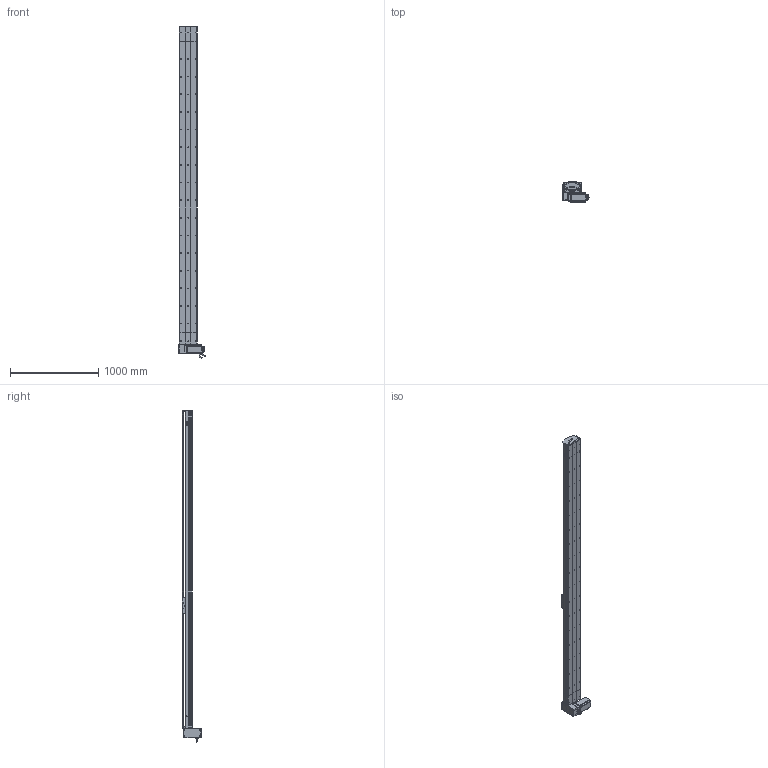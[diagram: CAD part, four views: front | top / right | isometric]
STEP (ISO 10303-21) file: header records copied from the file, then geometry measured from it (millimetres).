
FILE_DESCRIPTION (( 'STEP AP214' ), '1' );
FILE_NAME ('D20 TBH RU S3300.STEP', '2010-07-01T08:53:43', ( 'Conseil Régional Haute-Normandie' ), ( 'Conseil Régional Haute-Normandie' ), 'SwSTEP 2.0', 'SolidWorks 2010', '' );
FILE_SCHEMA (( 'AUTOMOTIVE_DESIGN' ));
Length unit declared in the file: millimetre
Products named in the file (40): cache arbre D20_Default; corps 110BLDC170A-630x; avant 110BLDC170A-630x; Moteur motionking 110BLDC170A-640x; vis M5 L70_Default; Plaque racord D20LH_Default; Renvoi RU D20_Default; vis M5 L5_Default; couroie_Default; cache D20_Default; vis M5 L12_Default; tete d''axe poulie D20B; couvercle tail D20_Default; vis M5 L25_Default; rail tail D20; vis M5 L8 90°_Default; Couroie tail D20_Default; plaque de  bout tail D20_Default; poulie tail D20_Default; corpl tail D20 +100_Default; tail D20+100_Default; vis M8 L12_Default; Conecteur2_Default; codeur 110BLDC170A-630x; clavette; Conecteur_Default; Course B L3300_Default; D20 TBH RU S3300; rail + couroie  D20 S3300; couvercle D20 S3300_Default; corp D20 S3300_Default; guide D20B; Chariot D20B; chariot D20B_Default; rail head D20; corpl head D20_Default; head RU_Default; plaque de  bout head D20B RU_Default; poulie head D20_Default; couvercle head D20_Default
Assembly tree (71 placements, depth 4):
  D20 TBH RU S3300
    tail D20+100_Default
      vis M5 L25_Default  x2
      Couroie tail D20_Default
      vis M5 L12_Default  x4
      corpl tail D20 +100_Default
      couvercle tail D20_Default
      rail tail D20
      vis M5 L8 90°_Default  x2
      poulie tail D20_Default
      plaque de  bout tail D20_Default
      tete d''axe poulie D20B
    head RU_Default
      vis M8 L12_Default  x4
      couroie_Default
      vis M5 L12_Default  x10
      Moteur motionking 110BLDC170A-640x
        clavette
        Conecteur_Default
        avant 110BLDC170A-630x
        codeur 110BLDC170A-630x
        corps 110BLDC170A-630x
        Conecteur2_Default
      Plaque racord D20LH_Default
      poulie head D20_Default
      rail head D20
      vis M5 L5_Default  x4
      vis M5 L70_Default  x4
      vis M5 L25_Default  x2
      cache D20_Default  x2
      Renvoi RU D20_Default
      couvercle head D20_Default
      corpl head D20_Default
      cache arbre D20_Default
      plaque de  bout head D20B RU_Default
    chariot D20B_Default
      vis M5 L12_Default  x4
      guide D20B  x2
      Chariot D20B
    Course B L3300_Default
      corp D20 S3300_Default
      rail + couroie  D20 S3300
      couvercle D20 S3300_Default
Bounding box: 304.2 x 223.2 x 3765 mm (x, y, z)
Volume: 29128328.7 mm3; surface area: 7219695.5 mm2
Topology: 95 solids, 95 shells, 2901 faces, 7503 edges, 4853 vertices
Faces by surface type: plane 1654, cylinder 923, bspline 136, cone 99, torus 89
Entity records: 94780 total; most frequent: CARTESIAN_POINT 30967, ORIENTED_EDGE 11662, DIRECTION 10920, EDGE_CURVE 5831, VERTEX_POINT 3839, VECTOR 3664, LINE 3664, AXIS2_PLACEMENT_3D 3628
